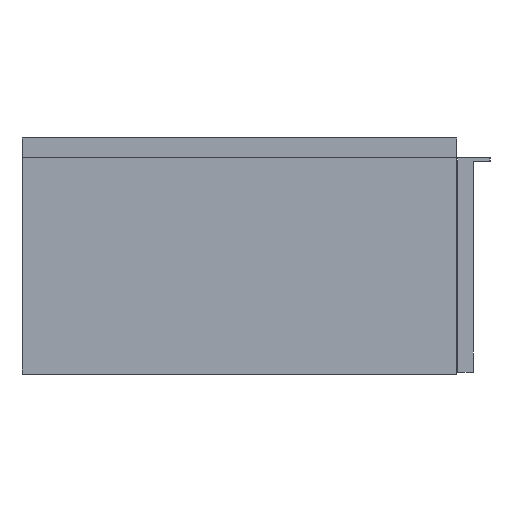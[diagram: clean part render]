
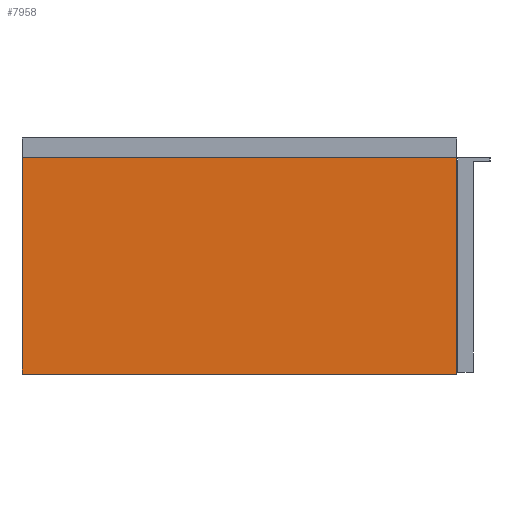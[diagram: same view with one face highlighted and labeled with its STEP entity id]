
A CAD part, left-side view. The second image highlights one B-rep face of the part: STEP entity #7958.
In plain terms, the highlighted planar face has unit normal (-1, 0, 0).
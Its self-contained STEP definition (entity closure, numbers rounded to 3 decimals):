
#486=FACE_OUTER_BOUND('',#880,.T.);
#880=EDGE_LOOP('',(#7221,#7222,#7223,#7224));
#1961=LINE('',#12636,#3048);
#1964=LINE('',#12641,#3051);
#1966=LINE('',#12645,#3053);
#1967=LINE('',#12647,#3054);
#3048=VECTOR('',#10360,10.);
#3051=VECTOR('',#10365,10.);
#3053=VECTOR('',#10369,10.);
#3054=VECTOR('',#10372,10.);
#3804=VERTEX_POINT('',#12633);
#3805=VERTEX_POINT('',#12635);
#3806=VERTEX_POINT('',#12639);
#3807=VERTEX_POINT('',#12643);
#4940=EDGE_CURVE('',#3805,#3804,#1961,.T.);
#4943=EDGE_CURVE('',#3804,#3806,#1964,.T.);
#4945=EDGE_CURVE('',#3807,#3806,#1966,.T.);
#4946=EDGE_CURVE('',#3805,#3807,#1967,.T.);
#7221=ORIENTED_EDGE('',*,*,#4940,.T.);
#7222=ORIENTED_EDGE('',*,*,#4943,.T.);
#7223=ORIENTED_EDGE('',*,*,#4945,.F.);
#7224=ORIENTED_EDGE('',*,*,#4946,.F.);
#7580=PLANE('',#8422);
#7958=ADVANCED_FACE('',(#486),#7580,.F.);
#8422=AXIS2_PLACEMENT_3D('',#12648,#10373,#10374);
#10360=DIRECTION('',(0.,-1.,0.));
#10365=DIRECTION('',(0.,0.,1.));
#10369=DIRECTION('',(0.,-1.,0.));
#10372=DIRECTION('',(0.,0.,1.));
#10373=DIRECTION('center_axis',(1.,0.,0.));
#10374=DIRECTION('ref_axis',(0.,0.,
-1.));
#12633=CARTESIAN_POINT('',(-445.,0.,0.));
#12635=CARTESIAN_POINT('',(-445.,220.,0.));
#12636=CARTESIAN_POINT('',(-445.,110.,0.));
#12639=CARTESIAN_POINT('',(-445.,0.,442.));
#12641=CARTESIAN_POINT('',(-445.,0.,0.));
#12643=CARTESIAN_POINT('',(-445.,220.,442.));
#12645=CARTESIAN_POINT('',(-445.,110.,442.));
#12647=CARTESIAN_POINT('',(-445.,220.,0.));
#12648=CARTESIAN_POINT('Origin',(-445.,220.,0.));
